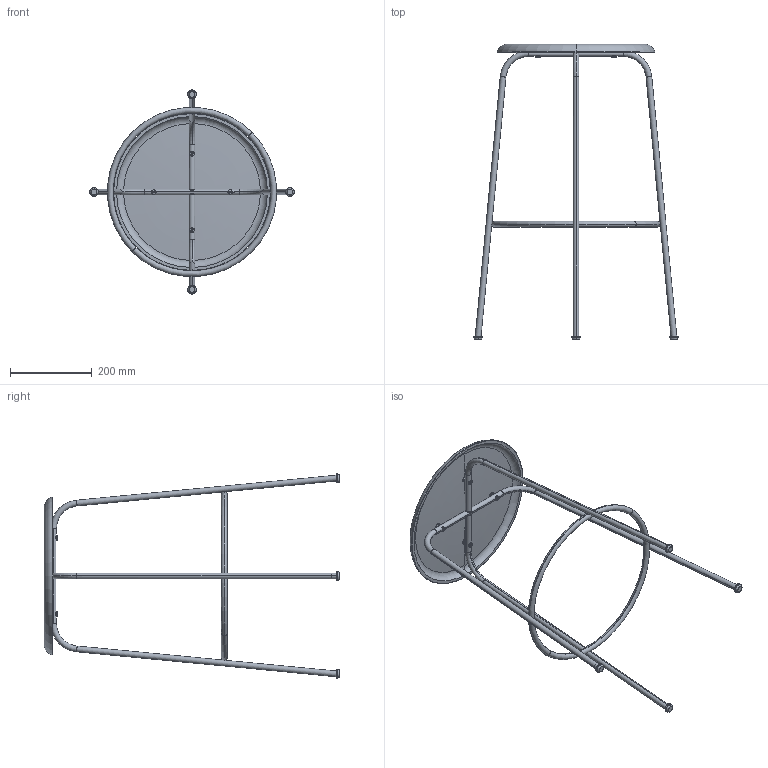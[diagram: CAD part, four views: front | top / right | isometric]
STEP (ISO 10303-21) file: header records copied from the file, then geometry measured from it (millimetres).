
FILE_DESCRIPTION (( 'STEP AP214' ), '1' );
FILE_NAME ('AFR_Bar stool plywood seat.STEP', '2023-10-04T10:40:32', ( '' ), ( '' ), 'SwSTEP 2.0', 'SolidWorks 2022', '' );
FILE_SCHEMA (( 'AUTOMOTIVE_DESIGN' ));
Length unit declared in the file: millimetre
Products named in the file (11): AFR_Bar stool plywood seat; Countersunk m6 25; afteroom counter stool seat frame 3; afteroom bar stool seat frame 2; afteroom bar stool seat frame 1; Skids; M6 x 6 mm threaded insert; afteroom counter chair feet disk; Afteroom_Dining_Chair_ply_seat; Afteroom_Dining_Chair_ply_seat_assem; Mount disk
Assembly tree (26 placements, depth 3):
  AFR_Bar stool plywood seat
    afteroom bar stool seat frame 1
    afteroom bar stool seat frame 2  x2
    afteroom counter chair feet disk  x4
    Skids  x4
    Mount disk  x4
    Afteroom_Dining_Chair_ply_seat_assem
      Afteroom_Dining_Chair_ply_seat
      M6 x 6 mm threaded insert  x4
    Countersunk m6 25  x4
    afteroom counter stool seat frame 3
Bounding box: 500.42 x 721.63 x 498.97 mm (x, y, z)
Volume: 1329485.2 mm3; surface area: 616410.7 mm2
Topology: 25 solids, 26 shells, 522 faces, 1304 edges, 824 vertices
Faces by surface type: cylinder 302, plane 84, cone 64, torus 40, bspline 24, sphere 8
Entity records: 14182 total; most frequent: CARTESIAN_POINT 9417, ORIENTED_EDGE 954, DIRECTION 871, EDGE_CURVE 477, AXIS2_PLACEMENT_3D 363, VERTEX_POINT 297, EDGE_LOOP 208, FACE_OUTER_BOUND 191
